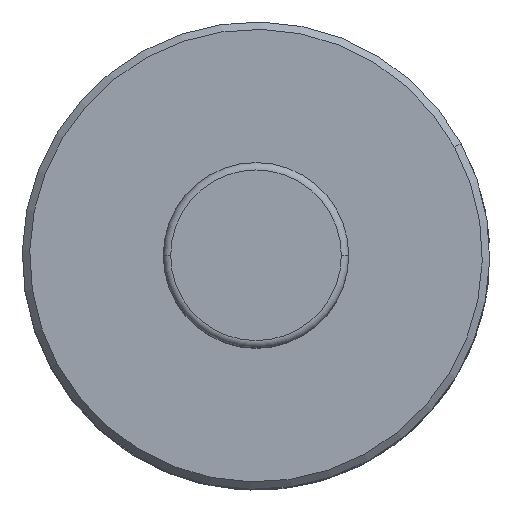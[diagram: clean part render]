
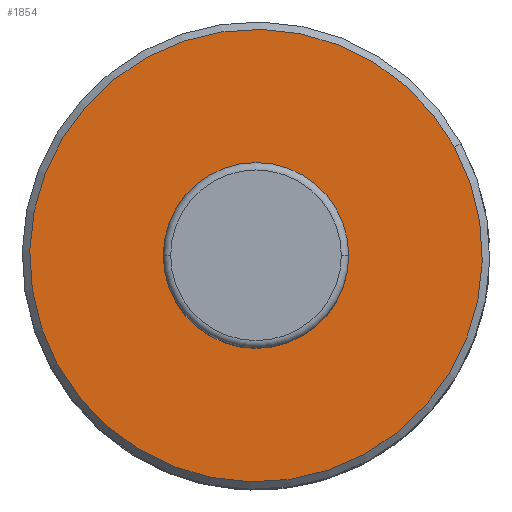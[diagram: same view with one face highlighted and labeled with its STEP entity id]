
A CAD part, top view. The second image highlights one B-rep face of the part: STEP entity #1854.
In plain terms, the highlighted planar face has unit normal (0, 0, 1).
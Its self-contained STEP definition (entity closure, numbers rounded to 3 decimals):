
#1809 = VERTEX_POINT('',#1810);
#1810 = CARTESIAN_POINT('',(-26.766,-14.622,68.));
#1816 = EDGE_CURVE('',#1809,#1817,#1819,.T.);
#1817 = VERTEX_POINT('',#1818);
#1818 = CARTESIAN_POINT('',(26.766,14.622,68.));
#1819 = CIRCLE('',#1820,30.5);
#1820 = AXIS2_PLACEMENT_3D('',#1821,#1822,#1823);
#1821 = CARTESIAN_POINT('',(0.,0.,68.));
#1822 = DIRECTION('',(0.,0.,-1.));
#1823 = DIRECTION('',(-1.,0.,0.));
#1841 = EDGE_CURVE('',#1817,#1809,#1842,.T.);
#1842 = CIRCLE('',#1843,30.5);
#1843 = AXIS2_PLACEMENT_3D('',#1844,#1845,#1846);
#1844 = CARTESIAN_POINT('',(0.,0.,68.));
#1845 = DIRECTION('',(0.,0.,-1.));
#1846 = DIRECTION('',(-1.,0.,0.));
#1854 = ADVANCED_FACE('',(#1855,#1859),#1879,.T.);
#1855 = FACE_BOUND('',#1856,.T.);
#1856 = EDGE_LOOP('',(#1857,#1858));
#1857 = ORIENTED_EDGE('',*,*,#1841,.F.);
#1858 = ORIENTED_EDGE('',*,*,#1816,.F.);
#1859 = FACE_BOUND('',#1860,.T.);
#1860 = EDGE_LOOP('',(#1861,#1872));
#1861 = ORIENTED_EDGE('',*,*,#1862,.F.);
#1862 = EDGE_CURVE('',#1863,#1865,#1867,.T.);
#1863 = VERTEX_POINT('',#1864);
#1864 = CARTESIAN_POINT('',(12.5,0.,68.));
#1865 = VERTEX_POINT('',#1866);
#1866 = CARTESIAN_POINT('',(-12.5,0.,68.));
#1867 = CIRCLE('',#1868,12.5);
#1868 = AXIS2_PLACEMENT_3D('',#1869,#1870,#1871);
#1869 = CARTESIAN_POINT('',(0.,0.,68.));
#1870 = DIRECTION('',(0.,0.,1.));
#1871 = DIRECTION('',(1.,0.,0.));
#1872 = ORIENTED_EDGE('',*,*,#1873,.F.);
#1873 = EDGE_CURVE('',#1865,#1863,#1874,.T.);
#1874 = CIRCLE('',#1875,12.5);
#1875 = AXIS2_PLACEMENT_3D('',#1876,#1877,#1878);
#1876 = CARTESIAN_POINT('',(0.,0.,68.));
#1877 = DIRECTION('',(0.,0.,1.));
#1878 = DIRECTION('',(1.,0.,0.));
#1879 = PLANE('',#1880);
#1880 = AXIS2_PLACEMENT_3D('',#1881,#1882,#1883);
#1881 = CARTESIAN_POINT('',(30.5,0.,68.));
#1882 = DIRECTION('',(0.,0.,1.));
#1883 = DIRECTION('',(1.,0.,0.));
